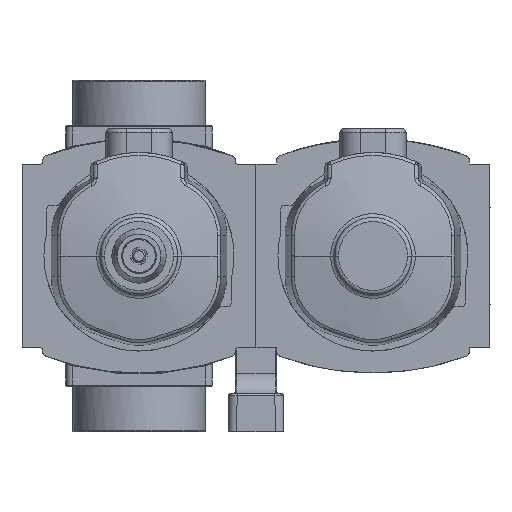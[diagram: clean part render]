
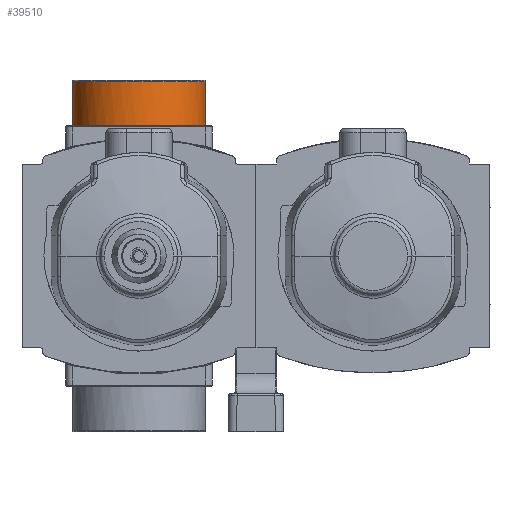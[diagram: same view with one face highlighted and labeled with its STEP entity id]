
A CAD part, front view. The second image highlights one B-rep face of the part: STEP entity #39510.
In plain terms, the highlighted cylindrical face has radius 15.95 mm (diameter 31.9 mm), a partial arc.
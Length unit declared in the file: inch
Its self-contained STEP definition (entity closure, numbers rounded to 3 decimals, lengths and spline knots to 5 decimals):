
#26451=CYLINDRICAL_SURFACE('',#89019,0.62795);
#31111=LINE('',#134785,#35063);
#31112=LINE('',#134798,#35064);
#35063=VECTOR('',#97343,1.);
#35064=VECTOR('',#97344,1.);
#39510=ADVANCED_FACE('',(#43314),#26451,.T.);
#43314=FACE_OUTER_BOUND('',#47090,.T.);
#47090=EDGE_LOOP('',(#58869,#58870,#58871,#58872));
#58869=ORIENTED_EDGE('',*,*,#78193,.F.);
#58870=ORIENTED_EDGE('',*,*,#78227,.T.);
#58871=ORIENTED_EDGE('',*,*,#78228,.F.);
#58872=ORIENTED_EDGE('',*,*,#78229,.T.);
#70609=VERTEX_POINT('',#134417);
#70610=VERTEX_POINT('',#134422);
#70632=VERTEX_POINT('',#134786);
#70633=VERTEX_POINT('',#134797);
#78193=EDGE_CURVE('',#70610,#70609,#84580,.T.);
#78227=EDGE_CURVE('',#70610,#70632,#31111,.T.);
#78228=EDGE_CURVE('',#70633,#70632,#84602,.T.);
#78229=EDGE_CURVE('',#70633,#70609,#31112,.T.);
#84580=B_SPLINE_CURVE_WITH_KNOTS('',3,(#134423,#134424,#134425,#134426,#134427,
#134428,#134429,#134430,#134431,#134432),.UNSPECIFIED.,.F.,.F.,(4,2,2,2,
4),(0.,0.25,0.5,0.75,1.),.UNSPECIFIED.);
#84602=B_SPLINE_CURVE_WITH_KNOTS('',3,(#134787,#134788,#134789,#134790,#134791,
#134792,#134793,#134794,#134795,#134796),.UNSPECIFIED.,.F.,.F.,(4,2,2,2,
4),(0.,0.25,0.5,0.75,1.),.UNSPECIFIED.);
#89019=AXIS2_PLACEMENT_3D('',#134799,#97345,#97346);
#97343=DIRECTION('',(0.,0.,-1.));
#97344=DIRECTION('',(0.,0.,1.));
#97345=DIRECTION('',(0.,0.,-1.));
#97346=DIRECTION('',(-1.,0.,0.));
#134417=CARTESIAN_POINT('',(-1.57677,1.33858,1.6437));
#134422=CARTESIAN_POINT('',(-2.83268,1.33858,1.6437));
#134423=CARTESIAN_POINT('',(-2.83268,1.33858,1.6437));
#134424=CARTESIAN_POINT('',(-2.83268,1.17419,1.6437));
#134425=CARTESIAN_POINT('',(-2.765,1.0108,1.6437));
#134426=CARTESIAN_POINT('',(-2.53251,0.77831,1.6437));
#134427=CARTESIAN_POINT('',(-2.36912,0.71063,1.6437));
#134428=CARTESIAN_POINT('',(-2.04033,0.71063,1.6437));
#134429=CARTESIAN_POINT('',(-1.87694,0.77831,1.6437));
#134430=CARTESIAN_POINT('',(-1.64445,1.0108,1.6437));
#134431=CARTESIAN_POINT('',(-1.57677,1.17419,1.6437));
#134432=CARTESIAN_POINT('',(-1.57677,1.33858,1.6437));
#134785=CARTESIAN_POINT('',(-2.83268,1.33858,236222.11614));
#134786=CARTESIAN_POINT('',(-2.83268,1.33858,1.22835));
#134787=CARTESIAN_POINT('',(-1.57677,1.33858,1.22835));
#134788=CARTESIAN_POINT('',(-1.57678,1.17382,1.22835));
#134789=CARTESIAN_POINT('',(-1.64444,1.01082,1.22835));
#134790=CARTESIAN_POINT('',(-1.87695,0.77829,1.22835));
#134791=CARTESIAN_POINT('',(-2.04031,0.71064,1.22835));
#134792=CARTESIAN_POINT('',(-2.36914,0.71062,1.22835));
#134793=CARTESIAN_POINT('',(-2.53249,0.7783,1.22835));
#134794=CARTESIAN_POINT('',(-2.76502,1.01081,1.22835));
#134795=CARTESIAN_POINT('',(-2.83267,1.17376,1.22835));
#134796=CARTESIAN_POINT('',(-2.83268,1.33858,1.22835));
#134797=CARTESIAN_POINT('',(-1.57677,1.33858,1.22835));
#134798=CARTESIAN_POINT('',(-1.57677,1.33858,236222.11614));
#134799=CARTESIAN_POINT('',(-2.20472,1.33858,236222.11614));
